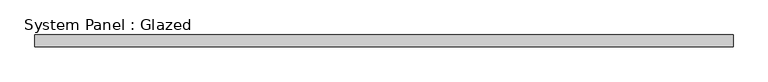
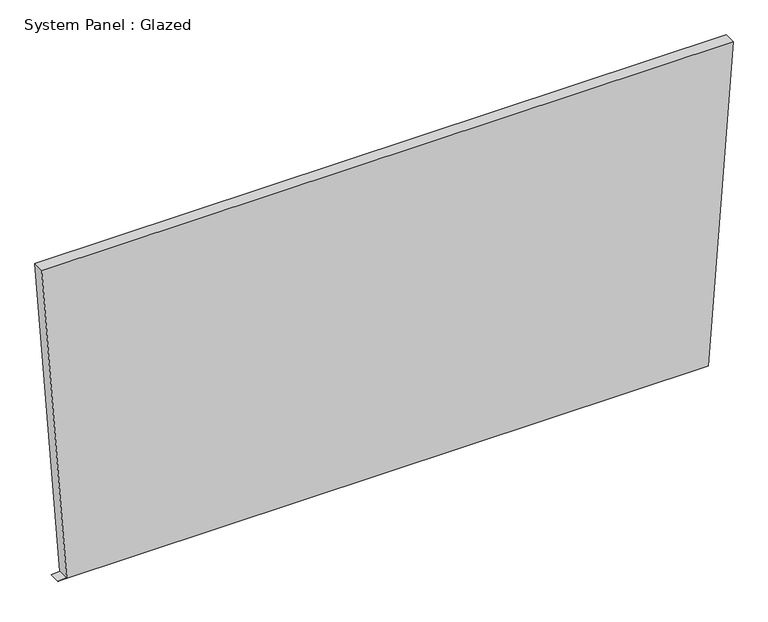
"""IFC4 building model written with IfcOpenShell, lengths in millimetres: plate geometry, System Panel : Glazed."""

from ifc_helpers import new_model, si_unit, frame, origin, place, context, project, spatial, polyline, outline, extrude, source, transform, mapped, element, save


def system_panel_glazed_601a3350(model_context):
    return source(origin(), model_context, "Body", "SweptSolid", [
        extrude(outline(polyline([(0.0010289, -715.408754), (0.0, 696.3059853), (726.435882, 750.415441), (726.4369758, -750.415441), (1.4160712, -696.4113816), (0.0010289, -715.408754)])), frame((0.0, 19.05, 0.0), z_axis=(0.0, 1.0, 0.0), x_axis=(0.0, 0.0, 1.0)), (0.0, 0.0, 1.0), 25.4),
    ])


if __name__ == "__main__":
    model = new_model("IFC4")
    model_context = context("Model", 3, world=origin())
    ifc_project = project(units=[si_unit("LENGTHUNIT", "METRE", prefix="MILLI")], contexts=[model_context])
    site = spatial("IfcSite", under=ifc_project)
    building = spatial("IfcBuilding", under=site)
    placement = place(None, origin())
    system_panel_glazed_shape = system_panel_glazed_601a3350(model_context)
    element("IfcPlate", 1, ObjectType="System Panel : Glazed", at=placement, inside=building, context=model_context, shape_type="MappedRepresentation", body=[
        mapped(system_panel_glazed_shape, transform((0.0, 0.0, 0.0), x_axis=(1.0, 0.0, 0.0), y_axis=(0.0, 1.0, 0.0), z_axis=(0.0, 0.0, 1.0))),
    ])
    save(model, "model.ifc")
